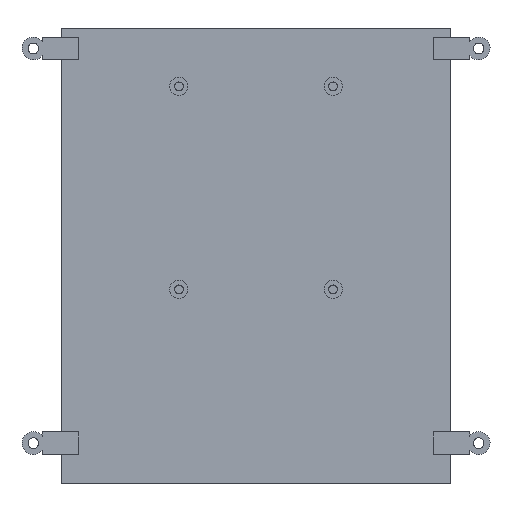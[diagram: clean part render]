
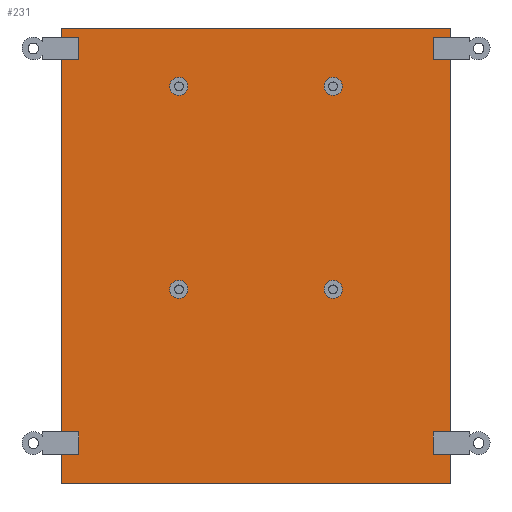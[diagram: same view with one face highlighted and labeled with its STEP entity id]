
A CAD part, front view. The second image highlights one B-rep face of the part: STEP entity #231.
In plain terms, the highlighted planar face has unit normal (0, -1, 0).
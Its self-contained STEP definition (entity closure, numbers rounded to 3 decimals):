
#64 = VERTEX_POINT('',#65);
#65 = CARTESIAN_POINT('',(70.,-226.,294.5));
#87 = VERTEX_POINT('',#88);
#88 = CARTESIAN_POINT('',(74.,-226.,294.5));
#94 = EDGE_CURVE('',#64,#87,#95,.T.);
#95 = LINE('',#96,#97);
#96 = CARTESIAN_POINT('',(-3.5,-226.,294.5));
#97 = VECTOR('',#98,1.);
#98 = DIRECTION('',(1.,0.,0.));
#151 = VERTEX_POINT('',#152);
#152 = CARTESIAN_POINT('',(70.,-226.,138.5));
#174 = VERTEX_POINT('',#175);
#175 = CARTESIAN_POINT('',(74.,-226.,138.5));
#181 = EDGE_CURVE('',#151,#174,#182,.T.);
#182 = LINE('',#183,#184);
#183 = CARTESIAN_POINT('',(-3.5,-226.,138.5));
#184 = VECTOR('',#185,1.);
#185 = DIRECTION('',(1.,0.,0.));
#195 = EDGE_CURVE('',#196,#198,#200,.T.);
#196 = VERTEX_POINT('',#197);
#197 = CARTESIAN_POINT('',(-77.,-226.,118.));
#198 = VERTEX_POINT('',#199);
#199 = CARTESIAN_POINT('',(-77.,-226.,298.));
#200 = LINE('',#201,#202);
#201 = CARTESIAN_POINT('',(-77.,-226.,118.));
#202 = VECTOR('',#203,1.);
#203 = DIRECTION('',(0.,0.,1.));
#231 = ADVANCED_FACE('',(#232,#257,#291,#302,#336,#347,#358,#383,#394),
  #419,.F.);
#232 = FACE_BOUND('',#233,.F.);
#233 = EDGE_LOOP('',(#234,#242,#243,#251));
#234 = ORIENTED_EDGE('',*,*,#235,.F.);
#235 = EDGE_CURVE('',#196,#236,#238,.T.);
#236 = VERTEX_POINT('',#237);
#237 = CARTESIAN_POINT('',(77.,-226.,118.));
#238 = LINE('',#239,#240);
#239 = CARTESIAN_POINT('',(-77.,-226.,118.));
#240 = VECTOR('',#241,1.);
#241 = DIRECTION('',(1.,0.,0.));
#242 = ORIENTED_EDGE('',*,*,#195,.T.);
#243 = ORIENTED_EDGE('',*,*,#244,.T.);
#244 = EDGE_CURVE('',#198,#245,#247,.T.);
#245 = VERTEX_POINT('',#246);
#246 = CARTESIAN_POINT('',(77.,-226.,298.));
#247 = LINE('',#248,#249);
#248 = CARTESIAN_POINT('',(-77.,-226.,298.));
#249 = VECTOR('',#250,1.);
#250 = DIRECTION('',(1.,0.,0.));
#251 = ORIENTED_EDGE('',*,*,#252,.F.);
#252 = EDGE_CURVE('',#236,#245,#253,.T.);
#253 = LINE('',#254,#255);
#254 = CARTESIAN_POINT('',(77.,-226.,118.));
#255 = VECTOR('',#256,1.);
#256 = DIRECTION('',(0.,0.,1.));
#257 = FACE_BOUND('',#258,.F.);
#258 = EDGE_LOOP('',(#259,#269,#277,#285));
#259 = ORIENTED_EDGE('',*,*,#260,.F.);
#260 = EDGE_CURVE('',#261,#263,#265,.T.);
#261 = VERTEX_POINT('',#262);
#262 = CARTESIAN_POINT('',(-74.,-226.,138.5));
#263 = VERTEX_POINT('',#264);
#264 = CARTESIAN_POINT('',(-70.,-226.,138.5));
#265 = LINE('',#266,#267);
#266 = CARTESIAN_POINT('',(-75.5,-226.,138.5));
#267 = VECTOR('',#268,1.);
#268 = DIRECTION('',(1.,0.,0.));
#269 = ORIENTED_EDGE('',*,*,#270,.T.);
#270 = EDGE_CURVE('',#261,#271,#273,.T.);
#271 = VERTEX_POINT('',#272);
#272 = CARTESIAN_POINT('',(-74.,-226.,129.5));
#273 = LINE('',#274,#275);
#274 = CARTESIAN_POINT('',(-74.,-226.,123.75));
#275 = VECTOR('',#276,1.);
#276 = DIRECTION('',(-0.,0.,-1.));
#277 = ORIENTED_EDGE('',*,*,#278,.T.);
#278 = EDGE_CURVE('',#271,#279,#281,.T.);
#279 = VERTEX_POINT('',#280);
#280 = CARTESIAN_POINT('',(-70.,-226.,129.5));
#281 = LINE('',#282,#283);
#282 = CARTESIAN_POINT('',(-75.5,-226.,129.5));
#283 = VECTOR('',#284,1.);
#284 = DIRECTION('',(1.,0.,0.));
#285 = ORIENTED_EDGE('',*,*,#286,.F.);
#286 = EDGE_CURVE('',#263,#279,#287,.T.);
#287 = LINE('',#288,#289);
#288 = CARTESIAN_POINT('',(-70.,-226.,123.75));
#289 = VECTOR('',#290,1.);
#290 = DIRECTION('',(-0.,0.,-1.));
#291 = FACE_BOUND('',#292,.F.);
#292 = EDGE_LOOP('',(#293));
#293 = ORIENTED_EDGE('',*,*,#294,.F.);
#294 = EDGE_CURVE('',#295,#295,#297,.T.);
#295 = VERTEX_POINT('',#296);
#296 = CARTESIAN_POINT('',(-30.48,-226.,198.388));
#297 = CIRCLE('',#298,3.6);
#298 = AXIS2_PLACEMENT_3D('',#299,#300,#301);
#299 = CARTESIAN_POINT('',(-30.48,-226.,194.788));
#300 = DIRECTION('',(0.,1.,0.));
#301 = DIRECTION('',(0.,0.,1.));
#302 = FACE_BOUND('',#303,.F.);
#303 = EDGE_LOOP('',(#304,#314,#322,#330));
#304 = ORIENTED_EDGE('',*,*,#305,.F.);
#305 = EDGE_CURVE('',#306,#308,#310,.T.);
#306 = VERTEX_POINT('',#307);
#307 = CARTESIAN_POINT('',(-74.,-226.,294.5));
#308 = VERTEX_POINT('',#309);
#309 = CARTESIAN_POINT('',(-70.,-226.,294.5));
#310 = LINE('',#311,#312);
#311 = CARTESIAN_POINT('',(-75.5,-226.,294.5));
#312 = VECTOR('',#313,1.);
#313 = DIRECTION('',(1.,0.,0.));
#314 = ORIENTED_EDGE('',*,*,#315,.T.);
#315 = EDGE_CURVE('',#306,#316,#318,.T.);
#316 = VERTEX_POINT('',#317);
#317 = CARTESIAN_POINT('',(-74.,-226.,285.5));
#318 = LINE('',#319,#320);
#319 = CARTESIAN_POINT('',(-74.,-226.,201.75));
#320 = VECTOR('',#321,1.);
#321 = DIRECTION('',(-0.,0.,-1.));
#322 = ORIENTED_EDGE('',*,*,#323,.T.);
#323 = EDGE_CURVE('',#316,#324,#326,.T.);
#324 = VERTEX_POINT('',#325);
#325 = CARTESIAN_POINT('',(-70.,-226.,285.5));
#326 = LINE('',#327,#328);
#327 = CARTESIAN_POINT('',(-75.5,-226.,285.5));
#328 = VECTOR('',#329,1.);
#329 = DIRECTION('',(1.,0.,0.));
#330 = ORIENTED_EDGE('',*,*,#331,.F.);
#331 = EDGE_CURVE('',#308,#324,#332,.T.);
#332 = LINE('',#333,#334);
#333 = CARTESIAN_POINT('',(-70.,-226.,201.75));
#334 = VECTOR('',#335,1.);
#335 = DIRECTION('',(-0.,0.,-1.));
#336 = FACE_BOUND('',#337,.F.);
#337 = EDGE_LOOP('',(#338));
#338 = ORIENTED_EDGE('',*,*,#339,.F.);
#339 = EDGE_CURVE('',#340,#340,#342,.T.);
#340 = VERTEX_POINT('',#341);
#341 = CARTESIAN_POINT('',(-30.48,-226.,278.652));
#342 = CIRCLE('',#343,3.6);
#343 = AXIS2_PLACEMENT_3D('',#344,#345,#346);
#344 = CARTESIAN_POINT('',(-30.48,-226.,275.052));
#345 = DIRECTION('',(0.,1.,0.));
#346 = DIRECTION('',(0.,0.,1.));
#347 = FACE_BOUND('',#348,.F.);
#348 = EDGE_LOOP('',(#349));
#349 = ORIENTED_EDGE('',*,*,#350,.F.);
#350 = EDGE_CURVE('',#351,#351,#353,.T.);
#351 = VERTEX_POINT('',#352);
#352 = CARTESIAN_POINT('',(30.48,-226.,198.388));
#353 = CIRCLE('',#354,3.6);
#354 = AXIS2_PLACEMENT_3D('',#355,#356,#357);
#355 = CARTESIAN_POINT('',(30.48,-226.,194.788));
#356 = DIRECTION('',(0.,1.,0.));
#357 = DIRECTION('',(0.,0.,1.));
#358 = FACE_BOUND('',#359,.F.);
#359 = EDGE_LOOP('',(#360,#361,#369,#377));
#360 = ORIENTED_EDGE('',*,*,#181,.F.);
#361 = ORIENTED_EDGE('',*,*,#362,.T.);
#362 = EDGE_CURVE('',#151,#363,#365,.T.);
#363 = VERTEX_POINT('',#364);
#364 = CARTESIAN_POINT('',(70.,-226.,129.5));
#365 = LINE('',#366,#367);
#366 = CARTESIAN_POINT('',(70.,-226.,123.75));
#367 = VECTOR('',#368,1.);
#368 = DIRECTION('',(-0.,0.,-1.));
#369 = ORIENTED_EDGE('',*,*,#370,.T.);
#370 = EDGE_CURVE('',#363,#371,#373,.T.);
#371 = VERTEX_POINT('',#372);
#372 = CARTESIAN_POINT('',(74.,-226.,129.5));
#373 = LINE('',#374,#375);
#374 = CARTESIAN_POINT('',(-3.5,-226.,129.5));
#375 = VECTOR('',#376,1.);
#376 = DIRECTION('',(1.,0.,0.));
#377 = ORIENTED_EDGE('',*,*,#378,.F.);
#378 = EDGE_CURVE('',#174,#371,#379,.T.);
#379 = LINE('',#380,#381);
#380 = CARTESIAN_POINT('',(74.,-226.,123.75));
#381 = VECTOR('',#382,1.);
#382 = DIRECTION('',(-0.,0.,-1.));
#383 = FACE_BOUND('',#384,.F.);
#384 = EDGE_LOOP('',(#385));
#385 = ORIENTED_EDGE('',*,*,#386,.F.);
#386 = EDGE_CURVE('',#387,#387,#389,.T.);
#387 = VERTEX_POINT('',#388);
#388 = CARTESIAN_POINT('',(30.48,-226.,278.652));
#389 = CIRCLE('',#390,3.6);
#390 = AXIS2_PLACEMENT_3D('',#391,#392,#393);
#391 = CARTESIAN_POINT('',(30.48,-226.,275.052));
#392 = DIRECTION('',(0.,1.,0.));
#393 = DIRECTION('',(0.,0.,1.));
#394 = FACE_BOUND('',#395,.F.);
#395 = EDGE_LOOP('',(#396,#397,#405,#413));
#396 = ORIENTED_EDGE('',*,*,#94,.F.);
#397 = ORIENTED_EDGE('',*,*,#398,.T.);
#398 = EDGE_CURVE('',#64,#399,#401,.T.);
#399 = VERTEX_POINT('',#400);
#400 = CARTESIAN_POINT('',(70.,-226.,285.5));
#401 = LINE('',#402,#403);
#402 = CARTESIAN_POINT('',(70.,-226.,201.75));
#403 = VECTOR('',#404,1.);
#404 = DIRECTION('',(-0.,0.,-1.));
#405 = ORIENTED_EDGE('',*,*,#406,.T.);
#406 = EDGE_CURVE('',#399,#407,#409,.T.);
#407 = VERTEX_POINT('',#408);
#408 = CARTESIAN_POINT('',(74.,-226.,285.5));
#409 = LINE('',#410,#411);
#410 = CARTESIAN_POINT('',(-3.5,-226.,285.5));
#411 = VECTOR('',#412,1.);
#412 = DIRECTION('',(1.,0.,0.));
#413 = ORIENTED_EDGE('',*,*,#414,.F.);
#414 = EDGE_CURVE('',#87,#407,#415,.T.);
#415 = LINE('',#416,#417);
#416 = CARTESIAN_POINT('',(74.,-226.,201.75));
#417 = VECTOR('',#418,1.);
#418 = DIRECTION('',(-0.,0.,-1.));
#419 = PLANE('',#420);
#420 = AXIS2_PLACEMENT_3D('',#421,#422,#423);
#421 = CARTESIAN_POINT('',(-77.,-226.,118.));
#422 = DIRECTION('',(0.,1.,0.));
#423 = DIRECTION('',(0.,0.,1.));
